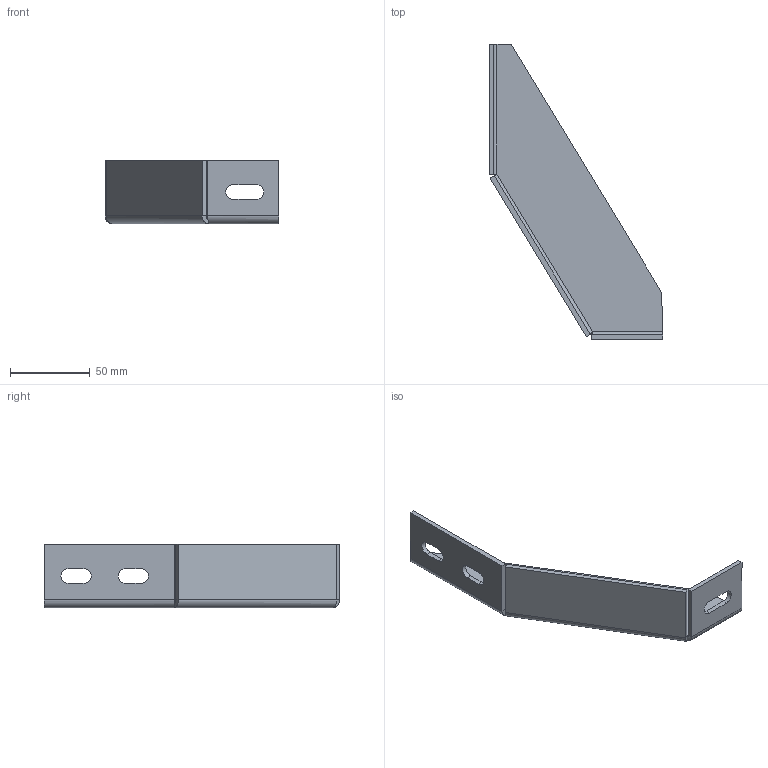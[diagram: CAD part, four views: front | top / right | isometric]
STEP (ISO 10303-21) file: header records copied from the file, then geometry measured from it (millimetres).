
FILE_DESCRIPTION (( 'STEP AP203' ), '1' );
FILE_NAME ('111-CE-GRD40.STEP', '2015-07-09T08:44:18', ( '' ), ( '' ), 'SwSTEP 2.0', 'SolidWorks 2013', '' );
FILE_SCHEMA (( 'CONFIG_CONTROL_DESIGN' ));
Length unit declared in the file: millimetre
Products named in the file (1): 111-CE-GRD40
Bounding box: 109.23 x 185.6 x 40 mm (x, y, z)
Surface area: 37936.4 mm2 (no closed solid volume)
Topology: 0 solids, 1 shells, 47 faces, 111 edges, 66 vertices
Faces by surface type: plane 27, cylinder 15, bspline 5
Entity records: 1652 total; most frequent: CARTESIAN_POINT 510, ORIENTED_EDGE 222, DIRECTION 207, EDGE_CURVE 111, VECTOR 81, LINE 81, VERTEX_POINT 66, AXIS2_PLACEMENT_3D 63
